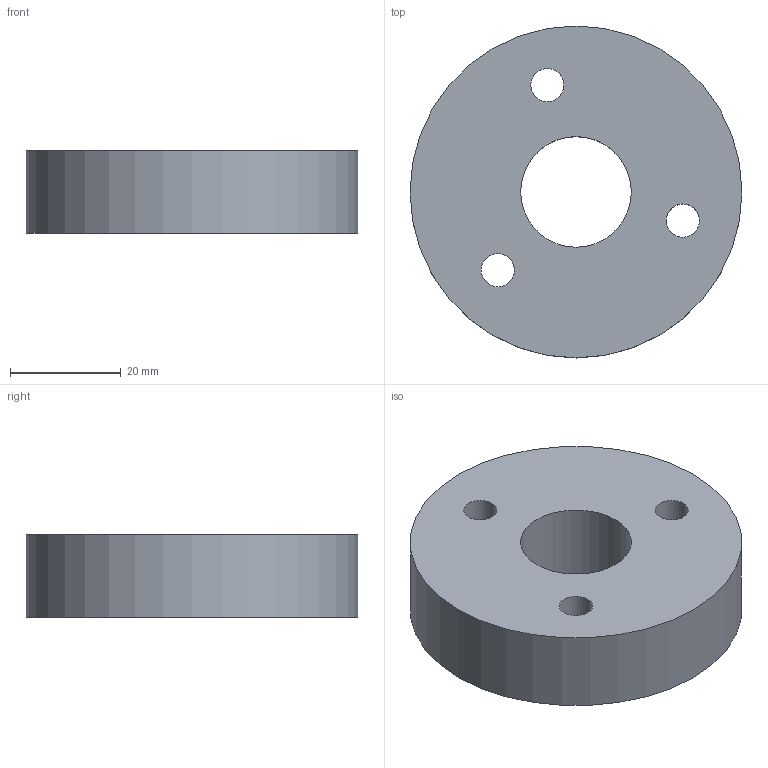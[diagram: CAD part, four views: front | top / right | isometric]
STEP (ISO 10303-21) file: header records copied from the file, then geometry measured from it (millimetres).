
FILE_DESCRIPTION(('FreeCAD Model'),'2;1');
FILE_NAME('/home/alexandre/Bureau/Cours-FreeCAD/Exercices/Exo-4.step', '2016-05-29T16:13:14',('Almisuifre'),(''), 'Open CASCADE STEP processor 6.8','FreeCAD','Unknown');
FILE_SCHEMA(('AUTOMOTIVE_DESIGN_CC2 { 1 2 10303 214 -1 1 5 4 }'));
Length unit declared in the file: millimetre
Products named in the file (2): ASSEMBLY; Pocket
Assembly tree (1 placements, depth 2):
  ASSEMBLY
    Pocket
Bounding box: 60 x 60 x 15 mm (x, y, z)
Volume: 36426.8 mm3; surface area: 9475 mm2
Topology: 1 solids, 1 shells, 7 faces, 15 edges, 10 vertices
Faces by surface type: cylinder 5, plane 2
Full cylindrical faces by diameter (mm): 6 x3, 20 x1, 60 x1
Entity records: 467 total; most frequent: CARTESIAN_POINT 100, DIRECTION 67, ORIENTED_EDGE 30, PCURVE 30, DEFINITIONAL_REPRESENTATION 30, LINE 25, VECTOR 25, AXIS2_PLACEMENT_3D 19
